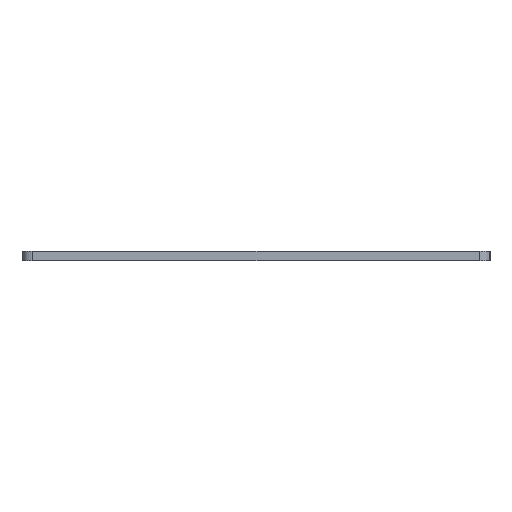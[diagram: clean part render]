
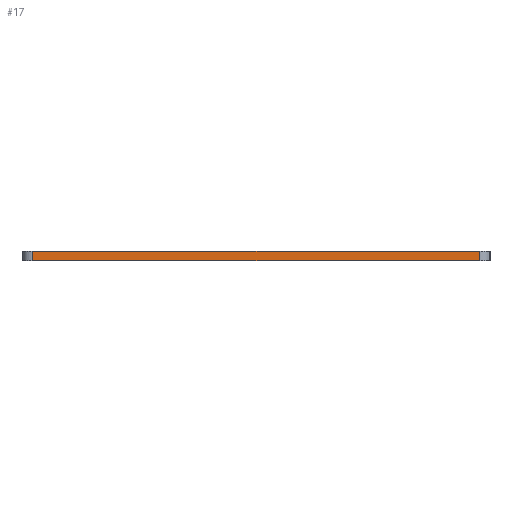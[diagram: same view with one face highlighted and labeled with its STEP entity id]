
A CAD part, left-side view. The second image highlights one B-rep face of the part: STEP entity #17.
In plain terms, the highlighted planar face has unit normal (-1, 0, 0).
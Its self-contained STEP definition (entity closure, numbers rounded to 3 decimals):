
#17 = ADVANCED_FACE('',(#18),#32,.F.);
#18 = FACE_BOUND('',#19,.F.);
#19 = EDGE_LOOP('',(#20,#55,#83,#111));
#20 = ORIENTED_EDGE('',*,*,#21,.F.);
#21 = EDGE_CURVE('',#22,#24,#26,.T.);
#22 = VERTEX_POINT('',#23);
#23 = CARTESIAN_POINT('',(-110.,-62.,1.25));
#24 = VERTEX_POINT('',#25);
#25 = CARTESIAN_POINT('',(-110.,62.,1.25));
#26 = SURFACE_CURVE('',#27,(#31,#43),.PCURVE_S1.);
#27 = LINE('',#28,#29);
#28 = CARTESIAN_POINT('',(-110.,-65.,1.25));
#29 = VECTOR('',#30,1.);
#30 = DIRECTION('',(0.,1.,0.));
#31 = PCURVE('',#32,#37);
#32 = PLANE('',#33);
#33 = AXIS2_PLACEMENT_3D('',#34,#35,#36);
#34 = CARTESIAN_POINT('',(-110.,-65.,-1.25));
#35 = DIRECTION('',(1.,0.,0.));
#36 = DIRECTION('',(0.,0.,1.));
#37 = DEFINITIONAL_REPRESENTATION('',(#38),#42);
#38 = LINE('',#39,#40);
#39 = CARTESIAN_POINT('',(2.5,0.));
#40 = VECTOR('',#41,1.);
#41 = DIRECTION('',(0.,-1.));
#42 = ( GEOMETRIC_REPRESENTATION_CONTEXT(2) 
PARAMETRIC_REPRESENTATION_CONTEXT() REPRESENTATION_CONTEXT('2D SPACE',''
  ) );
#43 = PCURVE('',#44,#49);
#44 = PLANE('',#45);
#45 = AXIS2_PLACEMENT_3D('',#46,#47,#48);
#46 = CARTESIAN_POINT('',(-110.,-65.,1.25));
#47 = DIRECTION('',(0.,0.,1.));
#48 = DIRECTION('',(1.,0.,0.));
#49 = DEFINITIONAL_REPRESENTATION('',(#50),#54);
#50 = LINE('',#51,#52);
#51 = CARTESIAN_POINT('',(0.,0.));
#52 = VECTOR('',#53,1.);
#53 = DIRECTION('',(0.,1.));
#54 = ( GEOMETRIC_REPRESENTATION_CONTEXT(2) 
PARAMETRIC_REPRESENTATION_CONTEXT() REPRESENTATION_CONTEXT('2D SPACE',''
  ) );
#55 = ORIENTED_EDGE('',*,*,#56,.F.);
#56 = EDGE_CURVE('',#57,#22,#59,.T.);
#57 = VERTEX_POINT('',#58);
#58 = CARTESIAN_POINT('',(-110.,-62.,-1.25));
#59 = SURFACE_CURVE('',#60,(#64,#71),.PCURVE_S1.);
#60 = LINE('',#61,#62);
#61 = CARTESIAN_POINT('',(-110.,-62.,-1.25));
#62 = VECTOR('',#63,1.);
#63 = DIRECTION('',(0.,0.,1.));
#64 = PCURVE('',#32,#65);
#65 = DEFINITIONAL_REPRESENTATION('',(#66),#70);
#66 = LINE('',#67,#68);
#67 = CARTESIAN_POINT('',(0.,-3.));
#68 = VECTOR('',#69,1.);
#69 = DIRECTION('',(1.,0.));
#70 = ( GEOMETRIC_REPRESENTATION_CONTEXT(2) 
PARAMETRIC_REPRESENTATION_CONTEXT() REPRESENTATION_CONTEXT('2D SPACE',''
  ) );
#71 = PCURVE('',#72,#77);
#72 = CYLINDRICAL_SURFACE('',#73,3.);
#73 = AXIS2_PLACEMENT_3D('',#74,#75,#76);
#74 = CARTESIAN_POINT('',(-107.,-62.,-1.25));
#75 = DIRECTION('',(0.,0.,1.));
#76 = DIRECTION('',(-1.,-0.,0.));
#77 = DEFINITIONAL_REPRESENTATION('',(#78),#82);
#78 = LINE('',#79,#80);
#79 = CARTESIAN_POINT('',(0.,0.));
#80 = VECTOR('',#81,1.);
#81 = DIRECTION('',(0.,1.));
#82 = ( GEOMETRIC_REPRESENTATION_CONTEXT(2) 
PARAMETRIC_REPRESENTATION_CONTEXT() REPRESENTATION_CONTEXT('2D SPACE',''
  ) );
#83 = ORIENTED_EDGE('',*,*,#84,.T.);
#84 = EDGE_CURVE('',#57,#85,#87,.T.);
#85 = VERTEX_POINT('',#86);
#86 = CARTESIAN_POINT('',(-110.,62.,-1.25));
#87 = SURFACE_CURVE('',#88,(#92,#99),.PCURVE_S1.);
#88 = LINE('',#89,#90);
#89 = CARTESIAN_POINT('',(-110.,-65.,-1.25));
#90 = VECTOR('',#91,1.);
#91 = DIRECTION('',(0.,1.,0.));
#92 = PCURVE('',#32,#93);
#93 = DEFINITIONAL_REPRESENTATION('',(#94),#98);
#94 = LINE('',#95,#96);
#95 = CARTESIAN_POINT('',(0.,0.));
#96 = VECTOR('',#97,1.);
#97 = DIRECTION('',(0.,-1.));
#98 = ( GEOMETRIC_REPRESENTATION_CONTEXT(2) 
PARAMETRIC_REPRESENTATION_CONTEXT() REPRESENTATION_CONTEXT('2D SPACE',''
  ) );
#99 = PCURVE('',#100,#105);
#100 = PLANE('',#101);
#101 = AXIS2_PLACEMENT_3D('',#102,#103,#104);
#102 = CARTESIAN_POINT('',(-110.,-65.,-1.25));
#103 = DIRECTION('',(0.,0.,1.));
#104 = DIRECTION('',(1.,0.,0.));
#105 = DEFINITIONAL_REPRESENTATION('',(#106),#110);
#106 = LINE('',#107,#108);
#107 = CARTESIAN_POINT('',(0.,0.));
#108 = VECTOR('',#109,1.);
#109 = DIRECTION('',(0.,1.));
#110 = ( GEOMETRIC_REPRESENTATION_CONTEXT(2) 
PARAMETRIC_REPRESENTATION_CONTEXT() REPRESENTATION_CONTEXT('2D SPACE',''
  ) );
#111 = ORIENTED_EDGE('',*,*,#112,.T.);
#112 = EDGE_CURVE('',#85,#24,#113,.T.);
#113 = SURFACE_CURVE('',#114,(#118,#125),.PCURVE_S1.);
#114 = LINE('',#115,#116);
#115 = CARTESIAN_POINT('',(-110.,62.,-1.25));
#116 = VECTOR('',#117,1.);
#117 = DIRECTION('',(0.,0.,1.));
#118 = PCURVE('',#32,#119);
#119 = DEFINITIONAL_REPRESENTATION('',(#120),#124);
#120 = LINE('',#121,#122);
#121 = CARTESIAN_POINT('',(0.,-127.));
#122 = VECTOR('',#123,1.);
#123 = DIRECTION('',(1.,0.));
#124 = ( GEOMETRIC_REPRESENTATION_CONTEXT(2) 
PARAMETRIC_REPRESENTATION_CONTEXT() REPRESENTATION_CONTEXT('2D SPACE',''
  ) );
#125 = PCURVE('',#126,#131);
#126 = CYLINDRICAL_SURFACE('',#127,3.);
#127 = AXIS2_PLACEMENT_3D('',#128,#129,#130);
#128 = CARTESIAN_POINT('',(-107.,62.,-1.25));
#129 = DIRECTION('',(0.,0.,1.));
#130 = DIRECTION('',(-1.,-0.,0.));
#131 = DEFINITIONAL_REPRESENTATION('',(#132),#136);
#132 = LINE('',#133,#134);
#133 = CARTESIAN_POINT('',(-0.,0.));
#134 = VECTOR('',#135,1.);
#135 = DIRECTION('',(-0.,1.));
#136 = ( GEOMETRIC_REPRESENTATION_CONTEXT(2) 
PARAMETRIC_REPRESENTATION_CONTEXT() REPRESENTATION_CONTEXT('2D SPACE',''
  ) );
